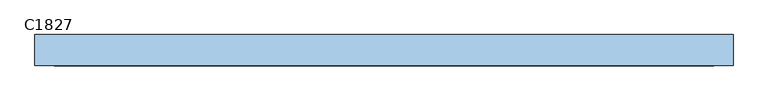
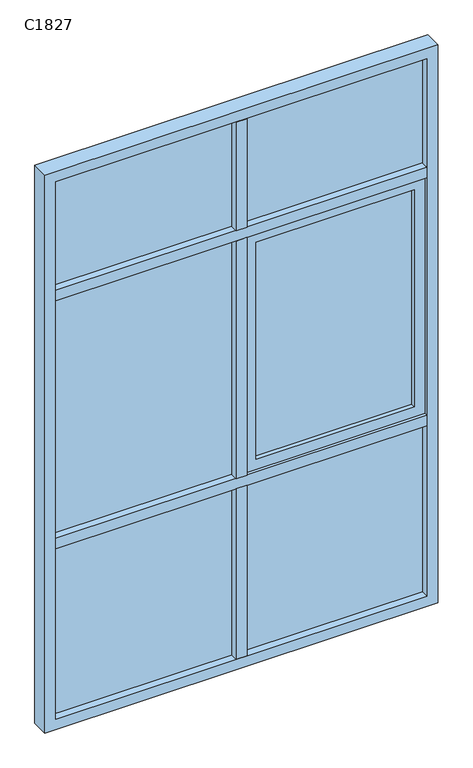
"""IFC4 building model written with IfcOpenShell, lengths in millimetres: window geometry, 组合窗 - 三层双列(平开+固定) : C1827."""

from ifc_helpers import new_model, si_unit, frame, origin, place, context, project, spatial, polyline, outline, extrude, source, transform, mapped, element, save


def c1827_4e4fbd46(model_context):
    return source(origin(), model_context, "Body", "SweptSolid", [
        extrude(outline(polyline([(-25.0, -10.0), (-25.0, -20.0), (-850.0, -20.0), (-850.0, -10.0), (-25.0, -10.0)])), frame((0.0, 0.0, 2125.0), z_axis=(0.0, 0.0, 1.0), x_axis=(1.0, 0.0, 0.0)), (0.0, 0.0, 1.0), 525.0),
        extrude(outline(polyline([(-25.0, -10.0), (-25.0, -20.0), (-850.0, -20.0), (-850.0, -10.0), (-25.0, -10.0)])), frame((0.0, 0.0, 925.0), z_axis=(0.0, 0.0, 1.0), x_axis=(1.0, 0.0, 0.0)), (0.0, 0.0, 1.0), 1150.0),
        extrude(outline(polyline([(-25.0, -10.0), (-25.0, -20.0), (-850.0, -20.0), (-850.0, -10.0), (-25.0, -10.0)])), frame((0.0, 0.0, 50.0), z_axis=(0.0, 0.0, 1.0), x_axis=(1.0, 0.0, 0.0)), (0.0, 0.0, 1.0), 825.0),
        extrude(outline(polyline([(850.0, -10.0), (850.0, -20.0), (25.0, -20.0), (25.0, -10.0), (850.0, -10.0)])), frame((0.0, 0.0, 50.0), z_axis=(0.0, 0.0, 1.0), x_axis=(1.0, 0.0, 0.0)), (0.0, 0.0, 1.0), 825.0),
        extrude(outline(polyline([(800.0, -10.0), (800.0, -20.0), (75.0, -20.0), (75.0, -10.0), (800.0, -10.0)])), frame((0.0, 0.0, 975.0), z_axis=(0.0, 0.0, 1.0), x_axis=(1.0, 0.0, 0.0)), (0.0, 0.0, 1.0), 1050.0),
        extrude(outline(polyline([(925.0, 850.0), (2075.0, 850.0), (2075.0, 25.0), (925.0, 25.0), (925.0, 850.0)]), holes=[polyline([(2025.0, 800.0), (975.0, 800.0), (975.0, 75.0), (2025.0, 75.0), (2025.0, 800.0)])]), frame((0.0, -40.0, 0.0), z_axis=(0.0, 1.0, 0.0), x_axis=(0.0, 0.0, 1.0)), (0.0, 0.0, 1.0), 50.0),
        extrude(outline(polyline([(850.0, -10.0), (850.0, -20.0), (25.0, -20.0), (25.0, -10.0), (850.0, -10.0)])), frame((0.0, 0.0, 2125.0), z_axis=(0.0, 0.0, 1.0), x_axis=(1.0, 0.0, 0.0)), (0.0, 0.0, 1.0), 525.0),
        extrude(outline(polyline([(-25.0, -55.0), (-25.0, 25.0), (25.0, 25.0), (25.0, -55.0), (-25.0, -55.0)])), frame((0.0, 0.0, 2125.0), z_axis=(0.0, 0.0, 1.0), x_axis=(1.0, 0.0, 0.0)), (0.0, 0.0, 1.0), 525.0),
        extrude(outline(polyline([(-25.0, -55.0), (-25.0, 25.0), (25.0, 25.0), (25.0, -55.0), (-25.0, -55.0)])), frame((0.0, 0.0, 925.0), z_axis=(0.0, 0.0, 1.0), x_axis=(1.0, 0.0, 0.0)), (0.0, 0.0, 1.0), 1150.0),
        extrude(outline(polyline([(-25.0, -55.0), (-25.0, 25.0), (25.0, 25.0), (25.0, -55.0), (-25.0, -55.0)])), frame((0.0, 0.0, 50.0), z_axis=(0.0, 0.0, 1.0), x_axis=(1.0, 0.0, 0.0)), (0.0, 0.0, 1.0), 825.0),
        extrude(outline(polyline([(-850.0, -55.0), (-850.0, 25.0), (850.0, 25.0), (850.0, -55.0), (-850.0, -55.0)])), frame((0.0, 0.0, 2075.0), z_axis=(0.0, 0.0, 1.0), x_axis=(1.0, 0.0, 0.0)), (0.0, 0.0, 1.0), 50.0),
        extrude(outline(polyline([(-850.0, -55.0), (-850.0, 25.0), (850.0, 25.0), (850.0, -55.0), (-850.0, -55.0)])), frame((0.0, 0.0, 875.0), z_axis=(0.0, 0.0, 1.0), x_axis=(1.0, 0.0, 0.0)), (0.0, 0.0, 1.0), 50.0),
        extrude(outline(polyline([(2700.0, 900.0), (2700.0, -900.0), (0.0, -900.0), (0.0, 900.0), (2700.0, 900.0)]), holes=[polyline([(2650.0, -850.0), (2650.0, 850.0), (50.0, 850.0), (50.0, -850.0), (2650.0, -850.0)])]), frame((0.0, -55.0, 0.0), z_axis=(0.0, 1.0, 0.0), x_axis=(0.0, 0.0, 1.0)), (0.0, 0.0, 1.0), 80.0),
    ])


if __name__ == "__main__":
    model = new_model("IFC4")
    model_context = context("Model", 3, world=origin())
    ifc_project = project(units=[si_unit("LENGTHUNIT", "METRE", prefix="MILLI")], contexts=[model_context])
    site = spatial("IfcSite", under=ifc_project)
    building = spatial("IfcBuilding", under=site)
    placement = place(None, origin())
    c1827_shape = c1827_4e4fbd46(model_context)
    element("IfcWindow", 1, ObjectType="组合窗 - 三层双列(平开+固定) : C1827", at=placement, inside=building, context=model_context, shape_type="MappedRepresentation", body=[
        mapped(c1827_shape, transform((0.0, 0.0, 0.0), x_axis=(1.0, 0.0, 0.0), y_axis=(0.0, 1.0, 0.0), z_axis=(0.0, 0.0, 1.0))),
    ])
    save(model, "model.ifc")
